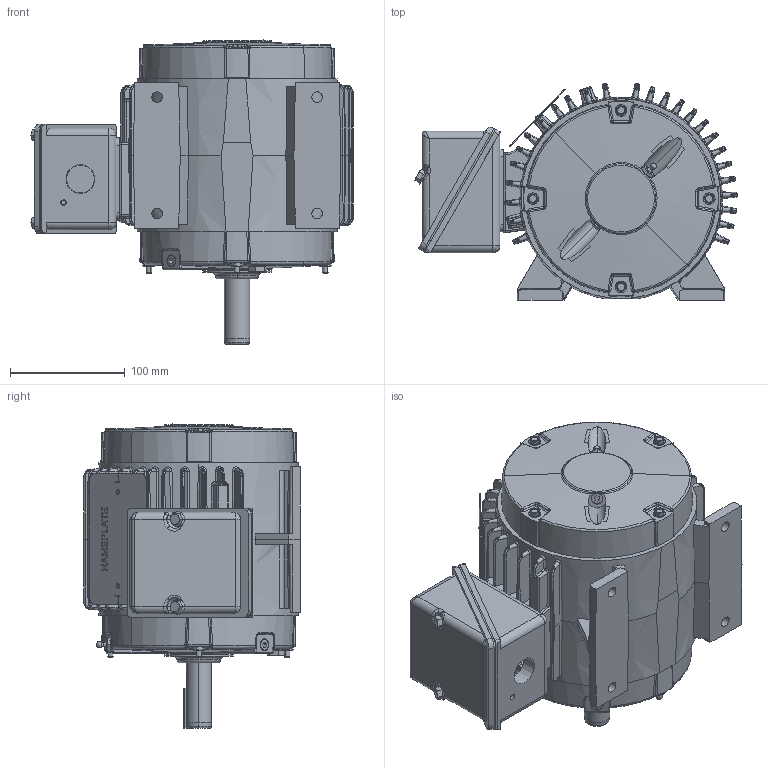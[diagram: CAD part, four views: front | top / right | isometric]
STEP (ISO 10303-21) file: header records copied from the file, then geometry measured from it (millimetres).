
FILE_DESCRIPTION (( 'STEP AP203' ), '1' );
FILE_NAME ('100658-525_F2_RevC.STEP', '2018-06-25T10:54:29', ( '' ), ( '' ), 'SwSTEP 2.0', 'SolidWorks 2015', '' );
FILE_SCHEMA (( 'CONFIG_CONTROL_DESIGN' ));
Length unit declared in the file: inch
Products named in the file (1): 100658-525_F2_RevC
Bounding box: 281.26 x 188.99 x 265.8 mm (x, y, z)
Volume: 2990434.4 mm3; surface area: 704620.5 mm2
Topology: 30 solids, 30 shells, 2926 faces, 7276 edges, 4315 vertices
Faces by surface type: bspline 864, plane 711, cylinder 681, cone 344, torus 258, sphere 68
Entity records: 120864 total; most frequent: CARTESIAN_POINT 59279, ORIENTED_EDGE 14226, DIRECTION 11338, EDGE_CURVE 7113, AXIS2_PLACEMENT_3D 4634, VERTEX_POINT 4301, EDGE_LOOP 3068, FACE_OUTER_BOUND 2926
